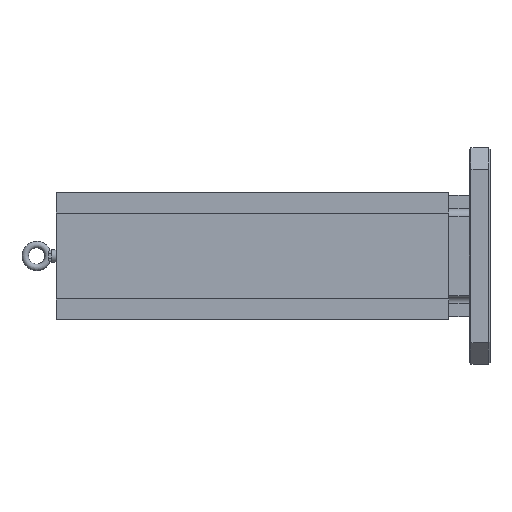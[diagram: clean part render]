
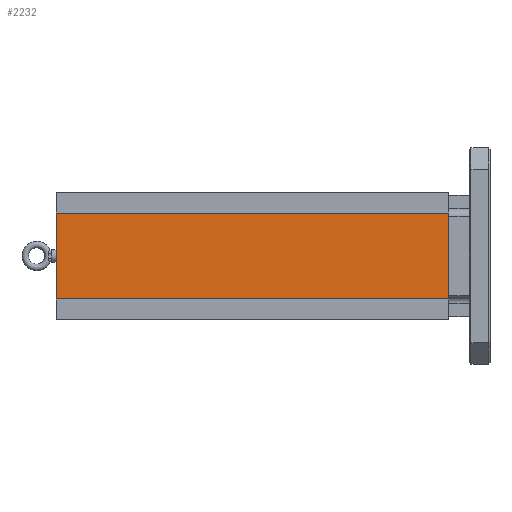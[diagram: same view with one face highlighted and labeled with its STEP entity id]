
A CAD part, left-side view. The second image highlights one B-rep face of the part: STEP entity #2232.
In plain terms, the highlighted planar face has unit normal (-1, 0, 0).
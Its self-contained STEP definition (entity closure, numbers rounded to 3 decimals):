
#37 = EDGE_CURVE ( 'NONE', #2056, #383, #8682, .T. ) ;
#288 = CARTESIAN_POINT ( 'NONE',  ( -116.992, 38.1, -79.273 ) ) ;
#356 = CARTESIAN_POINT ( 'NONE',  ( -116.992, 762., 79.273 ) ) ;
#383 = VERTEX_POINT ( 'NONE', #1489 ) ;
#480 = EDGE_CURVE ( 'NONE', #383, #555, #2153, .T. ) ;
#520 = DIRECTION ( 'NONE',  ( 0., 0., -1. ) ) ;
#555 = VERTEX_POINT ( 'NONE', #288 ) ;
#603 = ORIENTED_EDGE ( 'NONE', *, *, #4158, .F. ) ;
#1489 = CARTESIAN_POINT ( 'NONE',  ( -116.992, 38.1, 79.273 ) ) ;
#1815 = CARTESIAN_POINT ( 'NONE',  ( -116.992, 762., -79.273 ) ) ;
#2056 = VERTEX_POINT ( 'NONE', #356 ) ;
#2153 = LINE ( 'NONE', #4912, #11400 ) ;
#2232 = ADVANCED_FACE ( 'NONE', ( #8997 ), #10011, .F. ) ;
#2571 = VECTOR ( 'NONE', #2652, 1000. ) ;
#2652 = DIRECTION ( 'NONE',  ( 0., -1., 0. ) ) ;
#3499 = CARTESIAN_POINT ( 'NONE',  ( -116.992, 762., -79.273 ) ) ;
#3648 = CARTESIAN_POINT ( 'NONE',  ( -116.992, 762., -79.273 ) ) ;
#4158 = EDGE_CURVE ( 'NONE', #7318, #2056, #7287, .T. ) ;
#4352 = CARTESIAN_POINT ( 'NONE',  ( -116.992, 762., 79.273 ) ) ;
#4522 = EDGE_CURVE ( 'NONE', #7318, #555, #7985, .T. ) ;
#4912 = CARTESIAN_POINT ( 'NONE',  ( -116.992, 38.1, -79.273 ) ) ;
#5717 = ORIENTED_EDGE ( 'NONE', *, *, #480, .F. ) ;
#5978 = DIRECTION ( 'NONE',  ( 0., -1., 0. ) ) ;
#7287 = LINE ( 'NONE', #3499, #8696 ) ;
#7318 = VERTEX_POINT ( 'NONE', #10675 ) ;
#7985 = LINE ( 'NONE', #1815, #2571 ) ;
#8111 = ORIENTED_EDGE ( 'NONE', *, *, #37, .F. ) ;
#8682 = LINE ( 'NONE', #4352, #9407 ) ;
#8696 = VECTOR ( 'NONE', #10943, 1000. ) ;
#8734 = ORIENTED_EDGE ( 'NONE', *, *, #4522, .T. ) ;
#8997 = FACE_OUTER_BOUND ( 'NONE', #11599, .T. ) ;
#9407 = VECTOR ( 'NONE', #5978, 1000. ) ;
#10011 = PLANE ( 'NONE',  #10125 ) ;
#10125 = AXIS2_PLACEMENT_3D ( 'NONE', #3648, #10959, #11681 ) ;
#10675 = CARTESIAN_POINT ( 'NONE',  ( -116.992, 762., -79.273 ) ) ;
#10943 = DIRECTION ( 'NONE',  ( 0., 0., 1. ) ) ;
#10959 = DIRECTION ( 'NONE',  ( 1., 0., 0. ) ) ;
#11400 = VECTOR ( 'NONE', #520, 1000. ) ;
#11599 = EDGE_LOOP ( 'NONE', ( #5717, #8111, #603, #8734 ) ) ;
#11681 = DIRECTION ( 'NONE',  ( 0., 0., -1. ) ) ;
